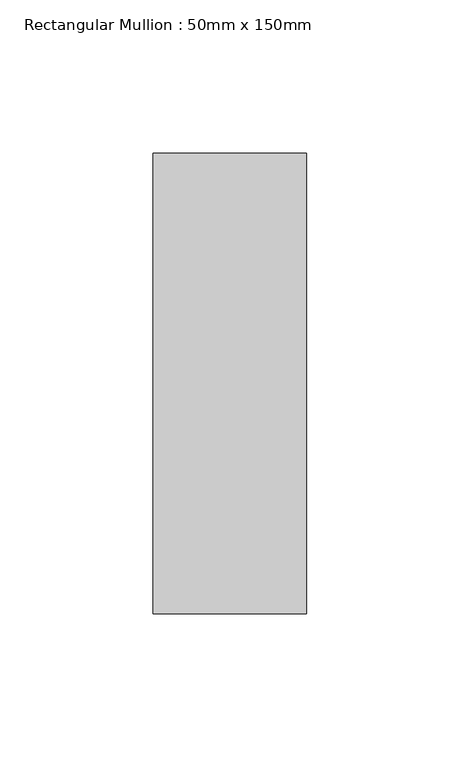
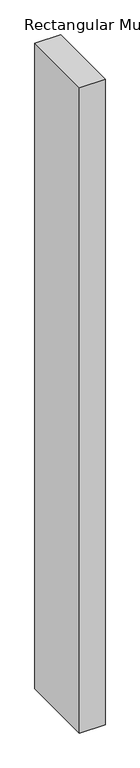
"""IFC4 building model written with IfcOpenShell, lengths in millimetres: member geometry, Rectangular Mullion : 50mm x 150mm."""

import ifcopenshell
import ifcopenshell.guid

model = None  # the IFC model being written
_history = None  # IfcOwnerHistory: only IFC2X3 demands one
_inside = {}  # id of a spatial element -> (the spatial element, [elements in it])
_under = {}  # id of a project, library or spatial element -> (it, [spatial elements below it])
_declared = {}  # id of a project -> (the project, [libraries it declares])
_typed = {}  # id of a type object -> (the type object, [elements of that type])
_made_of = {}  # id of a material, layer set ... -> (it, [elements and type objects made of it])


def new_model(schema):
    """Start an empty IFC model of exactly this schema.

    Asked for "IFC4X3", IfcOpenShell would pick the latest addendum, in which some entities
    have other attributes; the version numbers below select the first issue.
    IFC2X3 requires an IfcOwnerHistory on every rooted entity: one is made here for all.
    """
    global model, _history
    if schema == "IFC4X3":
        model = ifcopenshell.file(schema_version=(4, 3, 0, 0))
    else:
        model = ifcopenshell.file(schema=schema)
    _inside.clear()
    _under.clear()
    _declared.clear()
    _typed.clear()
    _made_of.clear()
    _history = None
    if model.schema == "IFC2X3":
        org = make("IfcOrganization", Name="unknown")
        user = make(
            "IfcPersonAndOrganization",
            ThePerson=make("IfcPerson", FamilyName="unknown"),
            TheOrganization=org,
        )
        app = make(
            "IfcApplication",
            ApplicationDeveloper=org,
            Version="unknown",
            ApplicationFullName="unknown",
            ApplicationIdentifier="unknown",
        )
        _history = make(
            "IfcOwnerHistory",
            OwningUser=user,
            OwningApplication=app,
            ChangeAction="ADDED",
            CreationDate=0,
        )
    return model


def make(cls, **values):
    """One entity of the class cls with the attributes given. An attribute that is None is left unset."""
    return model.create_entity(
        cls, **{name: value for name, value in values.items() if value is not None}
    )


def rooted(cls, **values):
    """An entity with a GlobalId (a new one), such as an element, a storey or a relation."""
    return make(cls, GlobalId=ifcopenshell.guid.new(), OwnerHistory=_history, **values)


def si_unit(unit_type, name, prefix=None):
    """IfcSIUnit, for example si_unit("LENGTHUNIT", "METRE", prefix="MILLI")."""
    return make("IfcSIUnit", UnitType=unit_type, Prefix=prefix, Name=name)


def assignment(units):
    """IfcUnitAssignment: the units of a project."""
    return None if units is None else make("IfcUnitAssignment", Units=units)


def point(xyz):
    """IfcCartesianPoint."""
    return None if xyz is None else make("IfcCartesianPoint", Coordinates=xyz)


def direction(xyz):
    """IfcDirection."""
    return None if xyz is None else make("IfcDirection", DirectionRatios=xyz)


def frame(location, z_axis=None, x_axis=None):
    """IfcAxis2Placement3D, a coordinate frame: its origin and axes. An axis left out is left unset."""
    return make(
        "IfcAxis2Placement3D",
        Location=point(location),
        Axis=direction(z_axis),
        RefDirection=direction(x_axis),
    )


def origin():
    """The frame at (0, 0, 0) with its axes left unset."""
    return frame((0.0, 0.0, 0.0))


def place(relative_to, where):
    """IfcLocalPlacement: puts the frame where relative to a parent placement (None: the world)."""
    return make(
        "IfcLocalPlacement", PlacementRelTo=relative_to, RelativePlacement=where
    )


def context(
    kind, dimensions, precision=None, world=None, true_north=None, identifier=None
):
    """IfcGeometricRepresentationContext, for example the 3D "Model" context."""
    return make(
        "IfcGeometricRepresentationContext",
        ContextIdentifier=identifier,
        ContextType=kind,
        CoordinateSpaceDimension=dimensions,
        Precision=precision,
        WorldCoordinateSystem=world,
        TrueNorth=true_north,
    )


def project(units=None, contexts=None):
    """IfcProject with its units and contexts."""
    return rooted(
        "IfcProject",
        Name="project",
        RepresentationContexts=contexts,
        UnitsInContext=assignment(units),
    )


def spatial(cls, under=None, at=None, **own):
    """A site, building, storey or space (cls), placed at a placement, below another one or the project."""
    s = rooted(cls, ObjectPlacement=at, **own)
    if under is not None:
        _under.setdefault(under.id(), (under, []))[1].append(s)
    return s


def polyline(points):
    """IfcPolyline through the points."""
    return make("IfcPolyline", Points=[point(p) for p in points])


def outline(outer, holes=None, kind="AREA"):
    """IfcArbitraryClosedProfileDef: a profile drawn as a closed curve; with holes, ...WithVoids."""
    if holes is None:
        return make("IfcArbitraryClosedProfileDef", ProfileType=kind, OuterCurve=outer)
    return make(
        "IfcArbitraryProfileDefWithVoids",
        ProfileType=kind,
        OuterCurve=outer,
        InnerCurves=holes,
    )


def extrude(swept, where, along, depth):
    """IfcExtrudedAreaSolid: the profile swept, set in the frame where, extruded along a direction by depth."""
    return make(
        "IfcExtrudedAreaSolid",
        SweptArea=swept,
        Position=where,
        ExtrudedDirection=direction(along),
        Depth=depth,
    )


def shape(context_of_items, identifier, shape_type, items):
    """IfcShapeRepresentation: the items that make up one representation, for example the "Body"."""
    return make(
        "IfcShapeRepresentation",
        ContextOfItems=context_of_items,
        RepresentationIdentifier=identifier,
        RepresentationType=shape_type,
        Items=items,
    )


def source(mapping_origin, context_of_items, identifier, shape_type, items):
    """IfcRepresentationMap: a shape defined once, which mapped items show again and again."""
    return make(
        "IfcRepresentationMap",
        MappingOrigin=mapping_origin,
        MappedRepresentation=shape(context_of_items, identifier, shape_type, items),
    )


def transform(
    local_origin,
    x_axis=None,
    y_axis=None,
    z_axis=None,
    scale=None,
    scale2=None,
    scale3=None,
    uniform=True,
):
    """IfcCartesianTransformationOperator3D, or its non-uniform kind. x_axis, y_axis, z_axis: its Axis1, 2, 3."""
    if uniform:
        return make(
            "IfcCartesianTransformationOperator3D",
            Axis1=direction(x_axis),
            Axis2=direction(y_axis),
            LocalOrigin=point(local_origin),
            Scale=scale,
            Axis3=direction(z_axis),
        )
    return make(
        "IfcCartesianTransformationOperator3DnonUniform",
        Axis1=direction(x_axis),
        Axis2=direction(y_axis),
        LocalOrigin=point(local_origin),
        Scale=scale,
        Axis3=direction(z_axis),
        Scale2=scale2,
        Scale3=scale3,
    )


def mapped(mapping_source, mapping_target):
    """IfcMappedItem: shows the shape of a source again, moved by a transform."""
    return make(
        "IfcMappedItem", MappingSource=mapping_source, MappingTarget=mapping_target
    )


def made_of(thing, what):
    """Note that an element or type object is made of a material, layer set ...; save() writes the relation."""
    if what is not None:
        _made_of.setdefault(what.id(), (what, []))[1].append(thing)
    return thing


def element(
    cls,
    number,
    at=None,
    inside=None,
    cuts=None,
    type_object=None,
    material=None,
    context=None,
    identifier="Body",
    shape_type=None,
    held_by="IfcProductDefinitionShape",
    body=None,
    shapes=None,
    **own,
):
    """One element of the class cls, such as IfcWall. Its Tag is "e" and its number.

    at: its placement. inside: the storey or other place that contains it. cuts: it is an
    opening in that element (IfcRelVoidsElement). A single representation is given by context,
    identifier, shape_type and body (its items); several are given by shapes. held_by: the class
    of the entity that holds the representations. save() writes the other relations.
    """
    e = rooted(cls, Tag="e%d" % number, ObjectPlacement=at, **own)
    if body is not None:
        shapes = [shape(context, identifier, shape_type, body)]
    if shapes is not None:
        e.Representation = make(held_by, Representations=shapes)
    if inside is not None:
        _inside.setdefault(inside.id(), (inside, []))[1].append(e)
    if cuts is not None:
        rooted(
            "IfcRelVoidsElement", RelatingBuildingElement=cuts, RelatedOpeningElement=e
        )
    if type_object is not None:
        _typed.setdefault(type_object.id(), (type_object, []))[1].append(e)
    return made_of(e, material)


def aggregate(whole, parts):
    """IfcRelAggregates: a whole, such as a stair, and the parts it consists of."""
    return rooted("IfcRelAggregates", RelatingObject=whole, RelatedObjects=parts)


def save(model, path):
    """Write the relations noted so far, then the file.

    IfcRelAggregates (storeys below a building ...), IfcRelContainedInSpatialStructure (elements
    in a storey), IfcRelDefinesByType, IfcRelAssociatesMaterial and IfcRelDeclares: one each for
    every whole, place, type object, material and project.
    """
    for whole, parts in _under.values():
        aggregate(whole, parts)
    for where, things in _inside.values():
        rooted(
            "IfcRelContainedInSpatialStructure",
            RelatedElements=things,
            RelatingStructure=where,
        )
    for kind, things in _typed.values():
        rooted("IfcRelDefinesByType", RelatedObjects=things, RelatingType=kind)
    for what, things in _made_of.values():
        rooted("IfcRelAssociatesMaterial", RelatedObjects=things, RelatingMaterial=what)
    for by, libraries in _declared.values():
        rooted("IfcRelDeclares", RelatingContext=by, RelatedDefinitions=libraries)
    model.write(path)


def rectangular_mullion_50mm_x_150mm_1f94af64(model_context):
    return source(origin(), model_context, "Body", "SweptSolid", [
        extrude(outline(polyline([(0.0, 75.0), (0.0, -75.0), (-50.0, -75.0), (-50.0, 75.0), (0.0, 75.0)])), frame((0.0, 0.0, -1329.6608805), z_axis=(0.0, 0.0, 1.0), x_axis=(1.0, 0.0, 0.0)), (0.0, 0.0, 1.0), 1329.6608805),
    ])


if __name__ == "__main__":
    model = new_model("IFC4")
    model_context = context("Model", 3, world=origin())
    ifc_project = project(units=[si_unit("LENGTHUNIT", "METRE", prefix="MILLI")], contexts=[model_context])
    site = spatial("IfcSite", under=ifc_project)
    building = spatial("IfcBuilding", under=site)
    placement = place(None, origin())
    rectangular_mullion_50mm_x_150mm_shape = rectangular_mullion_50mm_x_150mm_1f94af64(model_context)
    element("IfcMember", 1, ObjectType="Rectangular Mullion : 50mm x 150mm", at=placement, inside=building, context=model_context, shape_type="MappedRepresentation", body=[
        mapped(rectangular_mullion_50mm_x_150mm_shape, transform((0.0, 0.0, 0.0), x_axis=(1.0, 0.0, 0.0), y_axis=(0.0, 1.0, 0.0), z_axis=(0.0, 0.0, 1.0))),
    ])
    save(model, "model.ifc")
